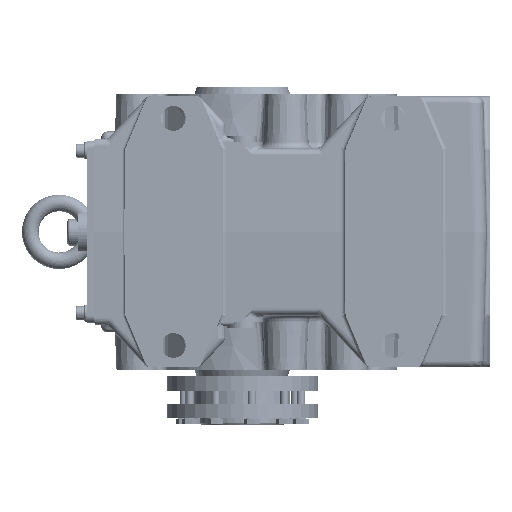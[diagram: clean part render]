
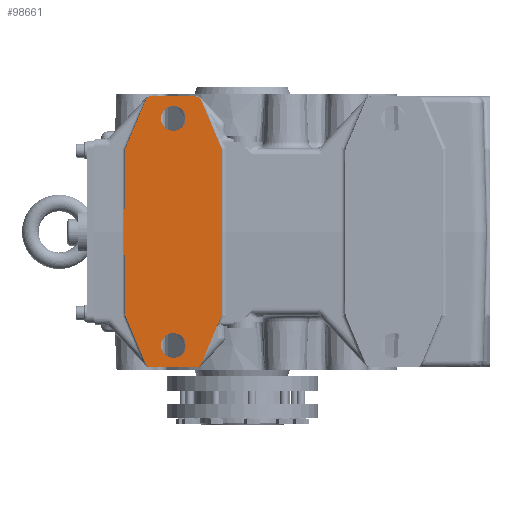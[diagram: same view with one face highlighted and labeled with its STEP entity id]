
A CAD part, left-side view. The second image highlights one B-rep face of the part: STEP entity #98661.
In plain terms, the highlighted planar face has unit normal (-1, 0, 0).
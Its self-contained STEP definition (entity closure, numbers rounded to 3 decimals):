
#77756=CARTESIAN_POINT('',(-112.,84.614,61.429));
#77757=VERTEX_POINT('',#77756);
#77758=CARTESIAN_POINT('',(-112.,82.368,66.75));
#77759=VERTEX_POINT('',#77758);
#77760=CARTESIAN_POINT('',(-112.,84.212,67.526));
#77761=DIRECTION('',(-1.0,0.0,0.0));
#77762=DIRECTION('',(0.0,0.388,-0.922));
#77763=AXIS2_PLACEMENT_3D('',#77760,#77761,#77762);
#77764=ELLIPSE('',#77763,82.895,2.0);
#77765=EDGE_CURVE('',#77757,#77759,#77764,.T.);
#77813=CARTESIAN_POINT('',(-112.,85.011,59.485));
#77814=VERTEX_POINT('',#77813);
#77815=CARTESIAN_POINT('',(-112.,85.011,59.485));
#77816=CARTESIAN_POINT('',(-112.,85.01,59.818));
#77817=CARTESIAN_POINT('',(-112.,84.976,60.151));
#77818=CARTESIAN_POINT('',(-112.,84.909,60.478));
#77819=CARTESIAN_POINT('',(-112.,84.842,60.804));
#77820=CARTESIAN_POINT('',(-112.,84.744,61.123));
#77821=CARTESIAN_POINT('',(-112.,84.614,61.429));
#77822=B_SPLINE_CURVE_WITH_KNOTS('',3,(#77815,#77816,#77817,#77818,#77819,#77820,#77821),.UNSPECIFIED.,.F.,.U.,(4,3,4),(-0.2,-0.1,0.0),.UNSPECIFIED.);
#77823=EDGE_CURVE('',#77814,#77757,#77822,.T.);
#77850=CARTESIAN_POINT('',(-112.,86.064,0.));
#77851=VERTEX_POINT('',#77850);
#77852=CARTESIAN_POINT('',(-112.,87.0,67.526));
#77853=DIRECTION('',(-1.0,0.0,0.0));
#77854=DIRECTION('',(0.0,0.0,-1.0));
#77855=AXIS2_PLACEMENT_3D('',#77852,#77853,#77854);
#77856=ELLIPSE('',#77855,76.403,2.0);
#77857=EDGE_CURVE('',#77851,#77814,#77856,.T.);
#77883=CARTESIAN_POINT('',(-112.,85.011,-59.485));
#77884=VERTEX_POINT('',#77883);
#77885=CARTESIAN_POINT('',(-112.,87.0,-67.526));
#77886=DIRECTION('',(-1.0,0.0,0.0));
#77887=DIRECTION('',(0.0,0.0,1.0));
#77888=AXIS2_PLACEMENT_3D('',#77885,#77886,#77887);
#77889=ELLIPSE('',#77888,76.403,2.0);
#77890=EDGE_CURVE('',#77884,#77851,#77889,.T.);
#84921=CARTESIAN_POINT('',(-112.,15.392,61.431));
#84922=VERTEX_POINT('',#84921);
#84923=CARTESIAN_POINT('',(-112.,15.0,59.49));
#84924=VERTEX_POINT('',#84923);
#84925=CARTESIAN_POINT('',(-112.,20.0,59.49));
#84926=DIRECTION('',(1.0,0.0,0.0));
#84927=DIRECTION('',(0.0,-0.98,0.198));
#84928=AXIS2_PLACEMENT_3D('',#84925,#84926,#84927);
#84929=CIRCLE('',#84928,5.);
#84930=EDGE_CURVE('',#84922,#84924,#84929,.T.);
#84953=CARTESIAN_POINT('',(-112.,29.712,95.44));
#84954=VERTEX_POINT('',#84953);
#84955=CARTESIAN_POINT('',(-112.,29.712,95.44));
#84956=DIRECTION('',(0.0,-0.388,-0.922));
#84957=VECTOR('',#84956,36.901);
#84958=LINE('',#84955,#84957);
#84959=EDGE_CURVE('',#84954,#84922,#84958,.T.);
#84981=CARTESIAN_POINT('',(-112.,34.32,98.5));
#84982=VERTEX_POINT('',#84981);
#84983=CARTESIAN_POINT('',(-112.,34.32,93.5));
#84984=DIRECTION('',(1.0,0.0,0.0));
#84985=DIRECTION('',(0.0,0.0,1.0));
#84986=AXIS2_PLACEMENT_3D('',#84983,#84984,#84985);
#84987=CIRCLE('',#84986,5.0);
#84988=EDGE_CURVE('',#84982,#84954,#84987,.T.);
#85006=CARTESIAN_POINT('',(-112.,65.68,98.5));
#85007=VERTEX_POINT('',#85006);
#85008=CARTESIAN_POINT('',(-112.,65.68,98.5));
#85009=DIRECTION('',(0.0,-1.0,0.0));
#85010=VECTOR('',#85009,31.36);
#85011=LINE('',#85008,#85010);
#85012=EDGE_CURVE('',#85007,#84982,#85011,.T.);
#85034=CARTESIAN_POINT('',(-112.,70.288,95.44));
#85035=VERTEX_POINT('',#85034);
#85036=CARTESIAN_POINT('',(-112.,65.68,93.5));
#85037=DIRECTION('',(1.0,0.0,0.0));
#85038=DIRECTION('',(0.0,0.0,1.0));
#85039=AXIS2_PLACEMENT_3D('',#85036,#85037,#85038);
#85040=CIRCLE('',#85039,5.0);
#85041=EDGE_CURVE('',#85035,#85007,#85040,.T.);
#85059=CARTESIAN_POINT('',(-112.0,82.368,66.75));
#85060=DIRECTION('',(0.0,-0.388,0.922));
#85061=VECTOR('',#85060,31.13);
#85062=LINE('',#85059,#85061);
#85063=EDGE_CURVE('',#77759,#85035,#85062,.T.);
#98077=CARTESIAN_POINT('',(-112.,84.614,-61.429));
#98078=VERTEX_POINT('',#98077);
#98079=CARTESIAN_POINT('',(-112.,84.614,-61.429));
#98080=CARTESIAN_POINT('',(-112.,84.744,-61.122));
#98081=CARTESIAN_POINT('',(-112.,84.843,-60.803));
#98082=CARTESIAN_POINT('',(-112.,84.909,-60.477));
#98083=CARTESIAN_POINT('',(-112.,84.976,-60.15));
#98084=CARTESIAN_POINT('',(-112.,85.01,-59.818));
#98085=CARTESIAN_POINT('',(-112.,85.011,-59.485));
#98086=B_SPLINE_CURVE_WITH_KNOTS('',3,(#98079,#98080,#98081,#98082,#98083,#98084,#98085),.UNSPECIFIED.,.F.,.U.,(4,3,4),(-0.2,-0.1,0.0),.UNSPECIFIED.);
#98087=EDGE_CURVE('',#98078,#77884,#98086,.T.);
#98114=CARTESIAN_POINT('',(-112.,82.368,-66.75));
#98115=VERTEX_POINT('',#98114);
#98116=CARTESIAN_POINT('',(-112.,84.212,-67.526));
#98117=DIRECTION('',(-1.0,0.0,0.0));
#98118=DIRECTION('',(0.0,0.388,0.922));
#98119=AXIS2_PLACEMENT_3D('',#98116,#98117,#98118);
#98120=ELLIPSE('',#98119,82.895,2.0);
#98121=EDGE_CURVE('',#98115,#98078,#98120,.T.);
#98145=CARTESIAN_POINT('',(-112.,70.288,-95.44));
#98146=VERTEX_POINT('',#98145);
#98147=CARTESIAN_POINT('',(-112.0,70.288,-95.44));
#98148=DIRECTION('',(0.0,0.388,0.922));
#98149=VECTOR('',#98148,31.13);
#98150=LINE('',#98147,#98149);
#98151=EDGE_CURVE('',#98146,#98115,#98150,.T.);
#98169=CARTESIAN_POINT('',(-112.,65.68,-98.5));
#98170=VERTEX_POINT('',#98169);
#98171=CARTESIAN_POINT('',(-112.,65.68,-93.5));
#98172=DIRECTION('',(1.0,0.0,0.0));
#98173=DIRECTION('',(0.0,0.0,-1.0));
#98174=AXIS2_PLACEMENT_3D('',#98171,#98172,#98173);
#98175=CIRCLE('',#98174,5.0);
#98176=EDGE_CURVE('',#98170,#98146,#98175,.T.);
#98194=CARTESIAN_POINT('',(-112.,34.32,-98.5));
#98195=VERTEX_POINT('',#98194);
#98196=CARTESIAN_POINT('',(-112.,34.32,-98.5));
#98197=DIRECTION('',(0.0,1.0,0.0));
#98198=VECTOR('',#98197,31.36);
#98199=LINE('',#98196,#98198);
#98200=EDGE_CURVE('',#98195,#98170,#98199,.T.);
#98222=CARTESIAN_POINT('',(-112.,29.712,-95.44));
#98223=VERTEX_POINT('',#98222);
#98224=CARTESIAN_POINT('',(-112.,34.32,-93.5));
#98225=DIRECTION('',(1.0,0.0,0.0));
#98226=DIRECTION('',(0.0,0.0,-1.0));
#98227=AXIS2_PLACEMENT_3D('',#98224,#98225,#98226);
#98228=CIRCLE('',#98227,5.0);
#98229=EDGE_CURVE('',#98223,#98195,#98228,.T.);
#98247=CARTESIAN_POINT('',(-112.,15.392,-61.431));
#98248=VERTEX_POINT('',#98247);
#98249=CARTESIAN_POINT('',(-112.,15.392,-61.431));
#98250=DIRECTION('',(0.0,0.388,-0.922));
#98251=VECTOR('',#98250,36.901);
#98252=LINE('',#98249,#98251);
#98253=EDGE_CURVE('',#98248,#98223,#98252,.T.);
#98274=CARTESIAN_POINT('',(-112.,15.0,-59.49));
#98275=VERTEX_POINT('',#98274);
#98276=CARTESIAN_POINT('',(-112.,20.0,-59.49));
#98277=DIRECTION('',(1.0,0.0,0.0));
#98278=DIRECTION('',(0.0,-0.98,-0.198));
#98279=AXIS2_PLACEMENT_3D('',#98276,#98277,#98278);
#98280=CIRCLE('',#98279,5.0);
#98281=EDGE_CURVE('',#98275,#98248,#98280,.T.);
#98299=CARTESIAN_POINT('',(-112.,15.0,59.49));
#98300=DIRECTION('',(0.0,0.0,-1.0));
#98301=VECTOR('',#98300,118.981);
#98302=LINE('',#98299,#98301);
#98303=EDGE_CURVE('',#84924,#98275,#98302,.T.);
#98613=CARTESIAN_POINT('',(-112.,-29.479,11.268));
#98614=DIRECTION('',(1.0,0.0,0.0));
#98615=DIRECTION('',(0.0,0.0,-1.0));
#98616=AXIS2_PLACEMENT_3D('',#98613,#98614,#98615);
#98617=PLANE('',#98616);
#98618=ORIENTED_EDGE('',*,*,#77890,.F.);
#98619=ORIENTED_EDGE('',*,*,#98087,.F.);
#98620=ORIENTED_EDGE('',*,*,#98121,.F.);
#98621=ORIENTED_EDGE('',*,*,#98151,.F.);
#98622=ORIENTED_EDGE('',*,*,#98176,.F.);
#98623=ORIENTED_EDGE('',*,*,#98200,.F.);
#98624=ORIENTED_EDGE('',*,*,#98229,.F.);
#98625=ORIENTED_EDGE('',*,*,#98253,.F.);
#98626=ORIENTED_EDGE('',*,*,#98281,.F.);
#98627=ORIENTED_EDGE('',*,*,#98303,.F.);
#98628=ORIENTED_EDGE('',*,*,#84930,.F.);
#98629=ORIENTED_EDGE('',*,*,#84959,.F.);
#98630=ORIENTED_EDGE('',*,*,#84988,.F.);
#98631=ORIENTED_EDGE('',*,*,#85012,.F.);
#98632=ORIENTED_EDGE('',*,*,#85041,.F.);
#98633=ORIENTED_EDGE('',*,*,#85063,.F.);
#98634=ORIENTED_EDGE('',*,*,#77765,.F.);
#98635=ORIENTED_EDGE('',*,*,#77823,.F.);
#98636=ORIENTED_EDGE('',*,*,#77857,.F.);
#98637=EDGE_LOOP('',(#98618,#98619,#98620,#98621,#98622,#98623,#98624,#98625,#98626,#98627,#98628,#98629,#98630,#98631,#98632,#98633,#98634,#98635,#98636));
#98638=FACE_OUTER_BOUND('',#98637,.T.);
#98639=CARTESIAN_POINT('',(-112.,50.0,-73.5));
#98640=VERTEX_POINT('',#98639);
#98641=CARTESIAN_POINT('',(-112.,50.0,-82.5));
#98642=DIRECTION('',(1.0,0.0,0.0));
#98643=DIRECTION('',(0.0,0.0,1.0));
#98644=AXIS2_PLACEMENT_3D('',#98641,#98642,#98643);
#98645=CIRCLE('',#98644,9.0);
#98646=EDGE_CURVE('',#98640,#98640,#98645,.T.);
#98647=ORIENTED_EDGE('',*,*,#98646,.T.);
#98648=EDGE_LOOP('',(#98647));
#98649=FACE_BOUND('',#98648,.T.);
#98650=CARTESIAN_POINT('',(-112.,50.,91.5));
#98651=VERTEX_POINT('',#98650);
#98652=CARTESIAN_POINT('',(-112.,50.,82.5));
#98653=DIRECTION('',(1.0,0.0,0.0));
#98654=DIRECTION('',(0.0,0.0,1.0));
#98655=AXIS2_PLACEMENT_3D('',#98652,#98653,#98654);
#98656=CIRCLE('',#98655,9.0);
#98657=EDGE_CURVE('',#98651,#98651,#98656,.T.);
#98658=ORIENTED_EDGE('',*,*,#98657,.T.);
#98659=EDGE_LOOP('',(#98658));
#98660=FACE_BOUND('',#98659,.T.);
#98661=ADVANCED_FACE('',(#98638,#98649,#98660),#98617,.F.);
